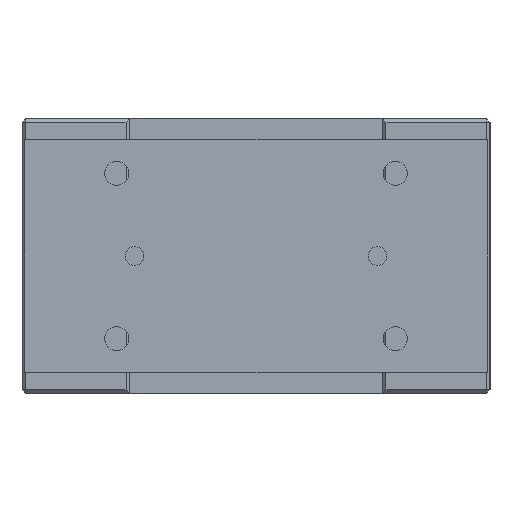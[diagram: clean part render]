
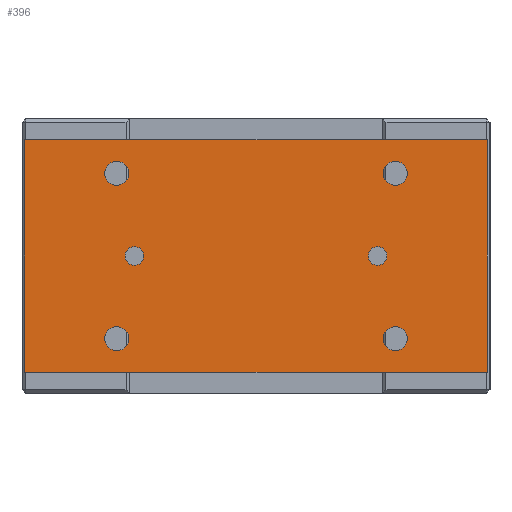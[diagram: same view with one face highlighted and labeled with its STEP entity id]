
A CAD part, left-side view. The second image highlights one B-rep face of the part: STEP entity #396.
In plain terms, the highlighted planar face has unit normal (-1, 0, 0).
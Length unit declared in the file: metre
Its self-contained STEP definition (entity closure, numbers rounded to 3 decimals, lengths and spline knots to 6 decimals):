
#396 = ADVANCED_FACE( '', ( #993, #994, #995, #996, #997, #998, #999 ), #1000, .T. );
#993 = FACE_BOUND( '', #1887, .T. );
#994 = FACE_BOUND( '', #1888, .T. );
#995 = FACE_BOUND( '', #1889, .T. );
#996 = FACE_BOUND( '', #1890, .T. );
#997 = FACE_BOUND( '', #1891, .T. );
#998 = FACE_BOUND( '', #1892, .T. );
#999 = FACE_OUTER_BOUND( '', #1893, .T. );
#1000 = PLANE( '', #1894 );
#1887 = EDGE_LOOP( '', ( #2987 ) );
#1888 = EDGE_LOOP( '', ( #2988 ) );
#1889 = EDGE_LOOP( '', ( #2989 ) );
#1890 = EDGE_LOOP( '', ( #2990 ) );
#1891 = EDGE_LOOP( '', ( #2991 ) );
#1892 = EDGE_LOOP( '', ( #2992 ) );
#1893 = EDGE_LOOP( '', ( #2993, #2994, #2995, #2996 ) );
#1894 = AXIS2_PLACEMENT_3D( '', #2997, #2998, #2999 );
#2987 = ORIENTED_EDGE( '', *, *, #4525, .F. );
#2988 = ORIENTED_EDGE( '', *, *, #4526, .T. );
#2989 = ORIENTED_EDGE( '', *, *, #4527, .F. );
#2990 = ORIENTED_EDGE( '', *, *, #4528, .F. );
#2991 = ORIENTED_EDGE( '', *, *, #4529, .F. );
#2992 = ORIENTED_EDGE( '', *, *, #4530, .F. );
#2993 = ORIENTED_EDGE( '', *, *, #4531, .T. );
#2994 = ORIENTED_EDGE( '', *, *, #4297, .T. );
#2995 = ORIENTED_EDGE( '', *, *, #4532, .T. );
#2996 = ORIENTED_EDGE( '', *, *, #4533, .T. );
#2997 = CARTESIAN_POINT( '', ( -0.143, -0.1245, -0.0115 ) );
#2998 = DIRECTION( '', ( -1., 0., 0. ) );
#2999 = DIRECTION( '', ( 0., 0., 1. ) );
#4297 = EDGE_CURVE( '', #4938, #4936, #4939, .T. );
#4525 = EDGE_CURVE( '', #5312, #5312, #5313, .T. );
#4526 = EDGE_CURVE( '', #5314, #5314, #5315, .T. );
#4527 = EDGE_CURVE( '', #5316, #5316, #5317, .T. );
#4528 = EDGE_CURVE( '', #5318, #5318, #5319, .T. );
#4529 = EDGE_CURVE( '', #5320, #5320, #5321, .T. );
#4530 = EDGE_CURVE( '', #5322, #5322, #5323, .T. );
#4531 = EDGE_CURVE( '', #5324, #4938, #5325, .T. );
#4532 = EDGE_CURVE( '', #4936, #5326, #5327, .T. );
#4533 = EDGE_CURVE( '', #5326, #5324, #5328, .T. );
#4936 = VERTEX_POINT( '', #5866 );
#4938 = VERTEX_POINT( '', #5869 );
#4939 = LINE( '', #5870, #5871 );
#5312 = VERTEX_POINT( '', #6383 );
#5313 = CIRCLE( '', #6384, 0.005 );
#5314 = VERTEX_POINT( '', #6385 );
#5315 = CIRCLE( '', #6386, 0.005 );
#5316 = VERTEX_POINT( '', #6387 );
#5317 = CIRCLE( '', #6388, 0.0065 );
#5318 = VERTEX_POINT( '', #6389 );
#5319 = CIRCLE( '', #6390, 0.0065 );
#5320 = VERTEX_POINT( '', #6391 );
#5321 = CIRCLE( '', #6392, 0.0065 );
#5322 = VERTEX_POINT( '', #6393 );
#5323 = CIRCLE( '', #6394, 0.0065 );
#5324 = VERTEX_POINT( '', #6395 );
#5325 = LINE( '', #6396, #6397 );
#5326 = VERTEX_POINT( '', #6398 );
#5327 = LINE( '', #6399, #6400 );
#5328 = LINE( '', #6401, #6402 );
#5866 = CARTESIAN_POINT( '', ( -0.143, 0.1245, -0.0115 ) );
#5869 = CARTESIAN_POINT( '', ( -0.143, -0.1245, -0.0115 ) );
#5870 = CARTESIAN_POINT( '', ( -0.143, -0.1245, -0.0115 ) );
#5871 = VECTOR( '', #7308, 1. );
#6383 = CARTESIAN_POINT( '', ( -0.143, -0.0705, -0.074 ) );
#6384 = AXIS2_PLACEMENT_3D( '', #7583, #7584, #7585 );
#6385 = CARTESIAN_POINT( '', ( -0.143, 0.0705, -0.074 ) );
#6386 = AXIS2_PLACEMENT_3D( '', #7586, #7587, #7588 );
#6387 = CARTESIAN_POINT( '', ( -0.143, -0.075, -0.112 ) );
#6388 = AXIS2_PLACEMENT_3D( '', #7589, #7590, #7591 );
#6389 = CARTESIAN_POINT( '', ( -0.143, 0.075, -0.112 ) );
#6390 = AXIS2_PLACEMENT_3D( '', #7592, #7593, #7594 );
#6391 = CARTESIAN_POINT( '', ( -0.143, -0.075, -0.023 ) );
#6392 = AXIS2_PLACEMENT_3D( '', #7595, #7596, #7597 );
#6393 = CARTESIAN_POINT( '', ( -0.143, 0.075, -0.023 ) );
#6394 = AXIS2_PLACEMENT_3D( '', #7598, #7599, #7600 );
#6395 = CARTESIAN_POINT( '', ( -0.143, -0.1245, -0.1365 ) );
#6396 = CARTESIAN_POINT( '', ( -0.143, -0.1245, -0.1365 ) );
#6397 = VECTOR( '', #7601, 1. );
#6398 = CARTESIAN_POINT( '', ( -0.143, 0.1245, -0.1365 ) );
#6399 = CARTESIAN_POINT( '', ( -0.143, 0.1245, -0.0115 ) );
#6400 = VECTOR( '', #7602, 1. );
#6401 = CARTESIAN_POINT( '', ( -0.143, 0.1245, -0.1365 ) );
#6402 = VECTOR( '', #7603, 1. );
#7308 = DIRECTION( '', ( 0., 1., 0. ) );
#7583 = CARTESIAN_POINT( '', ( -0.143, -0.0655, -0.074 ) );
#7584 = DIRECTION( '', ( -1., 0., 0. ) );
#7585 = DIRECTION( '', ( 0., -1., 0. ) );
#7586 = CARTESIAN_POINT( '', ( -0.143, 0.0655, -0.074 ) );
#7587 = DIRECTION( '', ( 1., 0., 0. ) );
#7588 = DIRECTION( '', ( 0., 1., 0. ) );
#7589 = CARTESIAN_POINT( '', ( -0.143, -0.075, -0.1185 ) );
#7590 = DIRECTION( '', ( -1., 0., 0. ) );
#7591 = DIRECTION( '', ( 0., 0., 1. ) );
#7592 = CARTESIAN_POINT( '', ( -0.143, 0.075, -0.1185 ) );
#7593 = DIRECTION( '', ( -1., 0., 0. ) );
#7594 = DIRECTION( '', ( 0., 0., 1. ) );
#7595 = CARTESIAN_POINT( '', ( -0.143, -0.075, -0.0295 ) );
#7596 = DIRECTION( '', ( -1., 0., 0. ) );
#7597 = DIRECTION( '', ( 0., 0., 1. ) );
#7598 = CARTESIAN_POINT( '', ( -0.143, 0.075, -0.0295 ) );
#7599 = DIRECTION( '', ( -1., 0., 0. ) );
#7600 = DIRECTION( '', ( 0., 0., 1. ) );
#7601 = DIRECTION( '', ( 0., 0., 1. ) );
#7602 = DIRECTION( '', ( 0., 0., -1. ) );
#7603 = DIRECTION( '', ( 0., -1., 0. ) );
